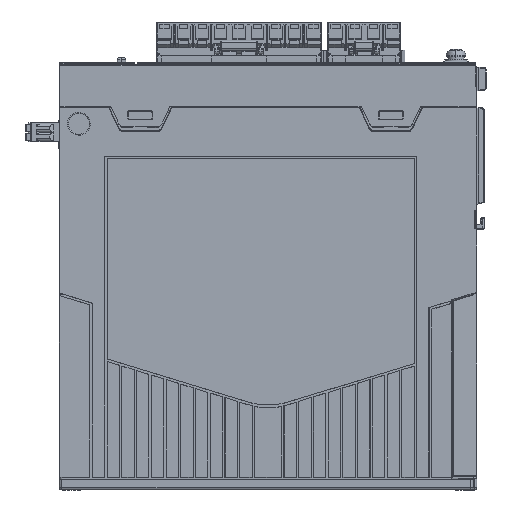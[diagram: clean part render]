
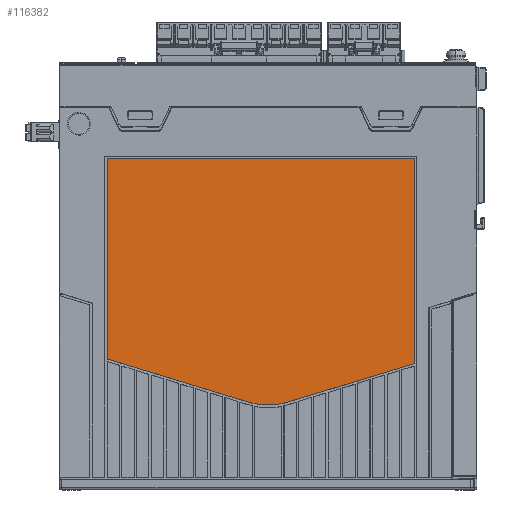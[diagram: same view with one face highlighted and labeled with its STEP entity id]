
A CAD part, left-side view. The second image highlights one B-rep face of the part: STEP entity #116382.
In plain terms, the highlighted planar face has unit normal (-1, 0, 0).
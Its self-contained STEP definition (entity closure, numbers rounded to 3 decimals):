
#28003=DIRECTION('',(0.,0.,-1.));
#28004=VECTOR('',#28003,81.426);
#28005=CARTESIAN_POINT('',(-30.9,140.501,
-21.25));
#28006=LINE('',#28005,#28004);
#28019=CARTESIAN_POINT('',(-30.9,15.499,
-21.25));
#28021=DIRECTION('',(0.,1.,0.));
#28022=VECTOR('',#28021,125.002);
#28023=CARTESIAN_POINT('',(-30.9,15.499,
-21.25));
#28024=LINE('',#28023,#28022);
#28025=CARTESIAN_POINT('',(-30.9,140.501,
-21.25));
#28037=CARTESIAN_POINT('',(-30.9,15.5,
-104.511));
#28039=DIRECTION('',(0.,0.,1.));
#28040=VECTOR('',#28039,83.261);
#28041=CARTESIAN_POINT('',(-30.9,15.5,
-104.511));
#28042=LINE('',#28041,#28040);
#28051=DIRECTION('',(0.,0.956,-0.292));
#28052=VECTOR('',#28051,53.352);
#28053=CARTESIAN_POINT('',(-30.9,15.5,
-104.511));
#28054=LINE('',#28053,#28052);
#28055=CARTESIAN_POINT('',(-30.9,75.,-92.376));
#28056=DIRECTION('',(1.,0.,0.));
#28057=DIRECTION('',(0.,-0.292,-0.956));
#28058=AXIS2_PLACEMENT_3D('',#28055,#28056,#28057);
#28060=CARTESIAN_POINT('',(-30.9,75.,-92.376));
#28061=DIRECTION('',(1.,0.,0.));
#28062=DIRECTION('',(0.,0.,-1.));
#28063=AXIS2_PLACEMENT_3D('',#28060,#28061,#28062);
#28065=DIRECTION('',(0.,0.956,0.292));
#28066=VECTOR('',#28065,59.627);
#28067=CARTESIAN_POINT('',(-30.9,83.479,
-120.109));
#28068=LINE('',#28067,#28066);
#45145=VERTEX_POINT('',#28025);
#45146=CARTESIAN_POINT('',(-30.9,140.5,
-102.676));
#45147=VERTEX_POINT('',#45146);
#45148=VERTEX_POINT('',#28019);
#45149=VERTEX_POINT('',#28037);
#45150=CARTESIAN_POINT('',(-30.9,66.521,
-120.109));
#45151=VERTEX_POINT('',#45150);
#45152=CARTESIAN_POINT('',(-30.9,83.479,
-120.109));
#45153=VERTEX_POINT('',#45152);
#45154=CARTESIAN_POINT('',(-30.9,75.,-121.376));
#45155=VERTEX_POINT('',#45154);
#116368=CARTESIAN_POINT('',(-30.9,78.8,0.));
#116369=DIRECTION('',(-1.,0.,0.));
#116370=DIRECTION('',(0.,0.,1.));
#116371=AXIS2_PLACEMENT_3D('',#116368,#116369,#116370);
#116372=PLANE('',#116371);
#116373=ORIENTED_EDGE('',*,*,#116247,.F.);
#116374=ORIENTED_EDGE('',*,*,#116269,.F.);
#116375=ORIENTED_EDGE('',*,*,#116290,.F.);
#116376=ORIENTED_EDGE('',*,*,#116311,.T.);
#116377=ORIENTED_EDGE('',*,*,#116335,.T.);
#116378=ORIENTED_EDGE('',*,*,#116333,.T.);
#116379=ORIENTED_EDGE('',*,*,#116355,.T.);
#116380=EDGE_LOOP('',(#116373,#116374,#116375,#116376,#116377,#116378,#116379));
#116381=FACE_OUTER_BOUND('',#116380,.F.);
#28059=CIRCLE('',#28058,29.);
#28064=CIRCLE('',#28063,29.);
#116247=EDGE_CURVE('',#45145,#45147,#28006,.T.);
#116269=EDGE_CURVE('',#45148,#45145,#28024,.T.);
#116290=EDGE_CURVE('',#45149,#45148,#28042,.T.);
#116311=EDGE_CURVE('',#45149,#45151,#28054,.T.);
#116333=EDGE_CURVE('',#45155,#45153,#28064,.T.);
#116335=EDGE_CURVE('',#45151,#45155,#28059,.T.);
#116355=EDGE_CURVE('',#45153,#45147,#28068,.T.);
#116382=ADVANCED_FACE('',(#116381),#116372,.T.);
